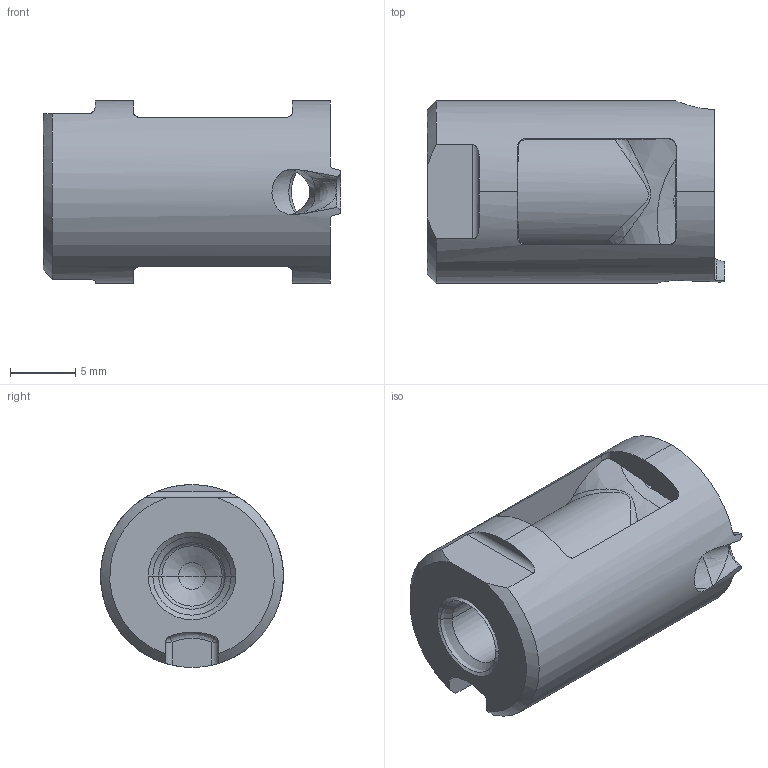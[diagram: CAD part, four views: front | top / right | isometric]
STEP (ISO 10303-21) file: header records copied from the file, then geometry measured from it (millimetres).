
FILE_DESCRIPTION((''),'2;1');
FILE_NAME('TGR14-24-S2','2004-03-24T',('tmeister'),(''),'PRO/ENGINEER BY PARAMETRIC TECHNOLOGY CORPORATION, 2002270','PRO/ENGINEER BY PARAMETRIC TECHNOLOGY CORPORATION, 2002270','');
FILE_SCHEMA(('CONFIG_CONTROL_DESIGN'));
Length unit declared in the file: millimetre
Products named in the file (1): TGR14-24-S2
Bounding box: 22.8 x 14 x 14 mm (x, y, z)
Volume: 2400.1 mm3; surface area: 1982.6 mm2
Topology: 1 solids, 2 shells, 76 faces, 274 edges, 199 vertices
Faces by surface type: cylinder 19, plane 18, cone 16, bspline 14, sphere 5, torus 4
Entity records: 5343 total; most frequent: CARTESIAN_POINT 3388, ORIENTED_EDGE 402, DIRECTION 304, EDGE_CURVE 203, B_SPLINE_CURVE_WITH_KNOTS 144, VERTEX_POINT 130, AXIS2_PLACEMENT_3D 114, EDGE_LOOP 79
